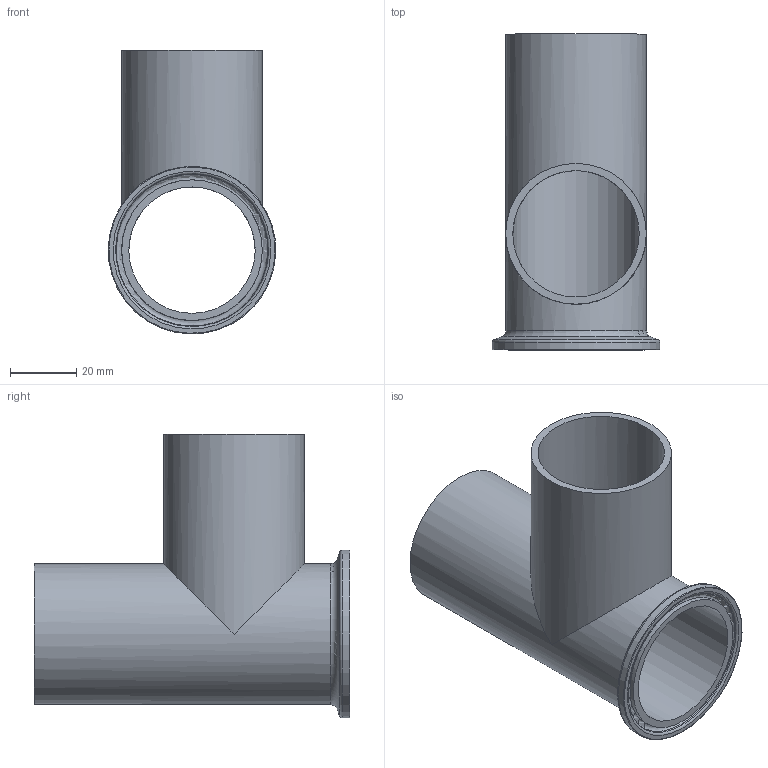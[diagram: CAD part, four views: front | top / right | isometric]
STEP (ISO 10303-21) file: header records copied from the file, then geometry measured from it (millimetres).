
FILE_DESCRIPTION(/* description */ ('Unknown'),/* implementation_level */ '2;1');
FILE_NAME(/* name */ 'FET-15T-XXX',/* time_stamp */ '2023-03-14T16:01:07-05:00',/* author */ ('Unknown'),/* organization */ ('Unknown'),/* preprocessor_version */ 'ST-DEVELOPER v16.7',/* originating_system */ 'Solid Edge',/* authorisation */ 'Unknown');
FILE_SCHEMA (('AUTOMOTIVE_DESIGN {1 0 10303 214 3 1 1}'));
Length unit declared in the file: millimetre
Products named in the file (1): FET-15T-XXX
Bounding box: 50.46 x 95.2 x 85.53 mm (x, y, z)
Volume: 37115.2 mm3; surface area: 34963.1 mm2
Topology: 1 solids, 1 shells, 17 faces, 37 edges, 23 vertices
Faces by surface type: cylinder 6, torus 5, plane 4, cone 2
Full cylindrical faces by diameter (mm): 38.1 x2, 42.4 x3, 50.5 x1
Entity records: 526 total; most frequent: DIRECTION 76, CARTESIAN_POINT 58, ORIENTED_EDGE 40, AXIS2_PLACEMENT_3D 38, EDGE_LOOP 36, FACE_BOUND 36, EDGE_CURVE 20, VERTEX_POINT 20
